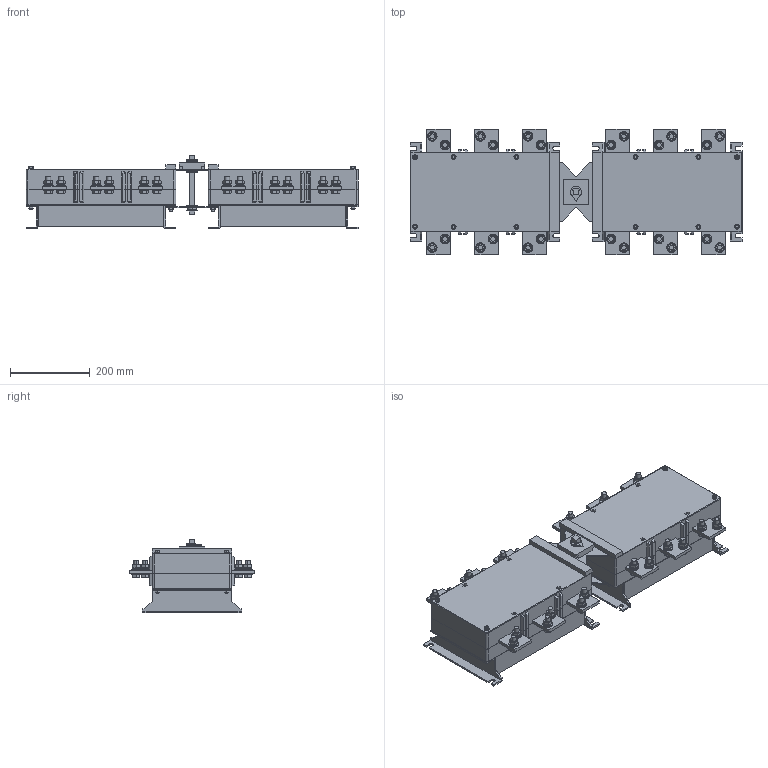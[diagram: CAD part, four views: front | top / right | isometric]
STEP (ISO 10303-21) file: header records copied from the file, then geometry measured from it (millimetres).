
FILE_DESCRIPTION((''),'2;1');
FILE_NAME('1000-3S_ASM','2021-05-07T',('wangpeng'),(''),'PRO/ENGINEER BY PARAMETRIC TECHNOLOGY CORPORATION, 2009460','PRO/ENGINEER BY PARAMETRIC TECHNOLOGY CORPORATION, 2009460','');
FILE_SCHEMA(('AUTOMOTIVE_DESIGN { 1 0 10303 214 1 1 1 1 }'));
Length unit declared in the file: millimetre
Products named in the file (23): SB-1000-3S; ZB-1000-3S; XB-1000-3S; CT-1000-3S; YB-1000-3S; ZCB-1000-3S; DB-1000-3S; DBX-1000-3S; ZCBX-1000-3S; 0LGM6; LMM6; LGM6; PDQ6; PDQ12; LSM12; TDQ12; LMM12; FKSNH40; ZSJNH40; ZSJTNH40; ZZ-1000-3S; DQM8; 1000-3S_ASM
Assembly tree (197 placements, depth 2):
  1000-3S_ASM
    SB-1000-3S  x2
    ZB-1000-3S  x2
    XB-1000-3S  x2
    CT-1000-3S  x6
    YB-1000-3S  x2
    ZCB-1000-3S
    DB-1000-3S  x2
    DBX-1000-3S  x2
    ZCBX-1000-3S
    0LGM6  x8
    LMM6  x28
    LGM6  x8
    PDQ6  x4
    PDQ12  x48
    LSM12  x25
    TDQ12  x24
    LMM12  x24
    FKSNH40  x3
    ZSJNH40
    ZSJTNH40
    ZZ-1000-3S
    DQM8  x2
Bounding box: 835 x 316 x 186 mm (x, y, z)
Volume: 21751516.4 mm3; surface area: 2018741 mm2
Topology: 197 solids, 197 shells, 3431 faces, 7859 edges, 4874 vertices
Faces by surface type: plane 1490, cylinder 1043, cone 774, sphere 76, bspline 32, torus 16
Entity records: 27974 total; most frequent: CARTESIAN_POINT 6476, DIRECTION 4210, ORIENTED_EDGE 3758, EDGE_CURVE 1879, AXIS2_PLACEMENT_3D 1521, VERTEX_POINT 1189, VECTOR 1168, LINE 1168
